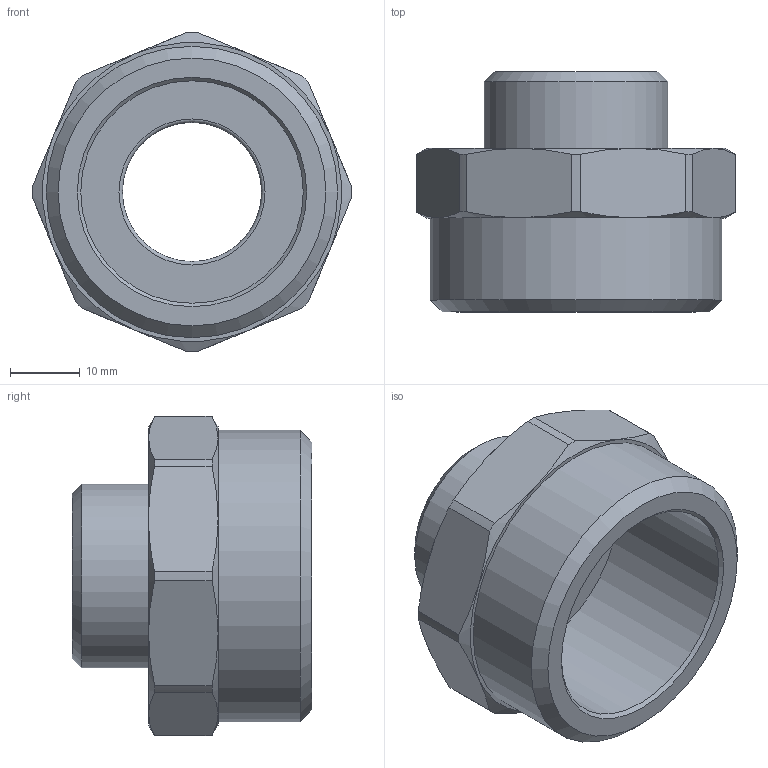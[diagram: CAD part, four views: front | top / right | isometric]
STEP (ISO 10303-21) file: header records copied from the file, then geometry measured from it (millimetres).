
FILE_DESCRIPTION(('STEP AP203'), '1');
FILE_NAME('ÂÐ.753157.005 - VTr.580.N.0705 Íèïïåëü G1 1-4xG3-4', '2024-07-03T10:17:02', ('Boss'), (''), 'C3D Converter', 'C3D Toolkit', '');
FILE_SCHEMA(('CONFIG_CONTROL_DESIGN'));
Length unit declared in the file: millimetre
Products named in the file (1): ВР.753157.005
Bounding box: 46 x 34.5 x 46 mm (x, y, z)
Volume: 18502.1 mm3; surface area: 9161.5 mm2
Topology: 1 solids, 1 shells, 45 faces, 100 edges, 60 vertices
Faces by surface type: cone 19, plane 13, cylinder 12, torus 1
Full cylindrical faces by diameter (mm): 20 x1, 26.441 x1, 32 x1, 41.91 x1
Entity records: 1684 total; most frequent: CARTESIAN_POINT 791, DIRECTION 180, ORIENTED_EDGE 166, EDGE_CURVE 83, AXIS2_PLACEMENT_3D 82, VERTEX_POINT 56, EDGE_LOOP 55, ADVANCED_FACE 41
